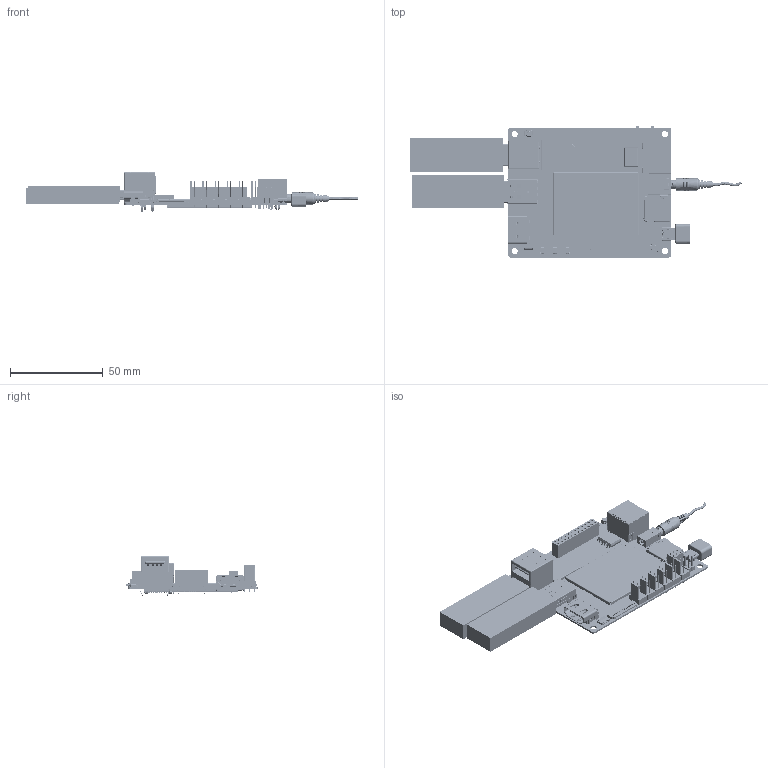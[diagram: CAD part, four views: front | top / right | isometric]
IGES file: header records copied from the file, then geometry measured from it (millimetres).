
Global section: file name: LPV1 3D model v1.0--2019 v1-iges; native system: unknown; preprocessor: unknown; author: unknown; organization: unknown; date: 20200410.142917; units: millimetre
Bounding box: 178.88 x 70.68 x 21.35 mm (x, y, z)
Volume: 34857.1 mm3; surface area: 51402.6 mm2
Topology: 71 solids, 74 shells, 12049 faces, 38085 edges, 27015 vertices
Faces by surface type: bspline 11672, revolution 377
